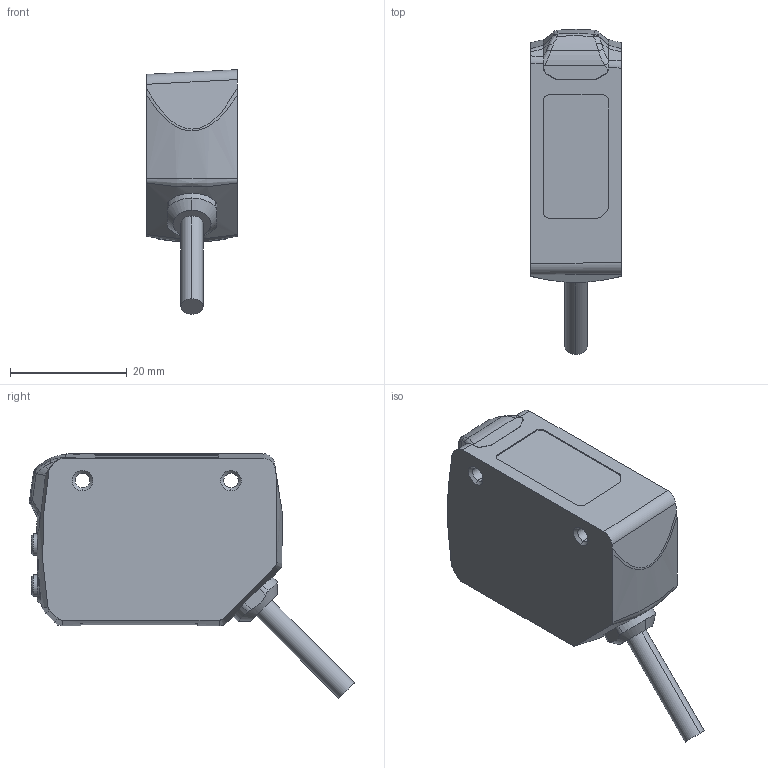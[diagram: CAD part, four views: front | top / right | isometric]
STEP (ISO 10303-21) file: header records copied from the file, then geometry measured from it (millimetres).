
FILE_DESCRIPTION(/* description */ (''),/* implementation_level */ '2;1');
FILE_NAME(/* name */ 'SPF04',/* time_stamp */ '2025-11-13T13:47:24+08:00',/* author */ (''),/* organization */ (''),/* preprocessor_version */ 'ST-DEVELOPER v19.2',/* originating_system */ 'Rhino 8.5',/* authorisation */ '');
FILE_SCHEMA (('CONFIG_CONTROL_DESIGN'));
Length unit declared in the file: millimetre
Products named in the file (1): Document
Bounding box: 15.5 x 55.6 x 41.84 mm (x, y, z)
Volume: 17588.7 mm3; surface area: 4985.5 mm2
Topology: 1 solids, 1 shells, 187 faces, 484 edges, 305 vertices
Faces by surface type: bspline 80, cylinder 59, plane 48
Entity records: 8176 total; most frequent: CARTESIAN_POINT 4521, ORIENTED_EDGE 960, EDGE_CURVE 480, DIRECTION 347, B_SPLINE_CURVE_WITH_KNOTS 314, VERTEX_POINT 305, AXIS2_PLACEMENT_3D 227, EDGE_LOOP 201
